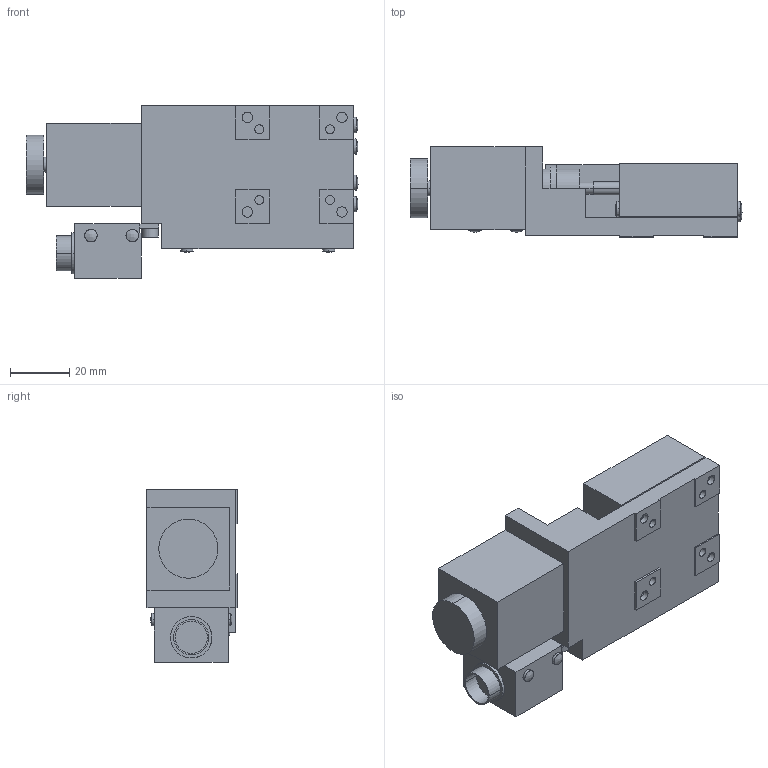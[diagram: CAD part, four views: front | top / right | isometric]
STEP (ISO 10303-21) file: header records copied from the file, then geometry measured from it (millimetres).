
FILE_DESCRIPTION (( 'STEP AP203' ), '1' );
FILE_NAME ('ALS-4011-G0M-R.STEP', '2010-12-20T04:50:02', ( ' ' ), ( ' ' ), 'SwSTEP 2.0', 'SolidWorks 2010', '' );
FILE_SCHEMA (( 'CONFIG_CONTROL_DESIGN' ));
Length unit declared in the file: millimetre
Products named in the file (3): ALS-4011-G0M-R-2; ALS-4011-G0M-R; ALS-4011-G0M-R-1
Assembly tree (2 placements, depth 2):
  ALS-4011-G0M-R
    ALS-4011-G0M-R-1
    ALS-4011-G0M-R-2
Bounding box: 112.44 x 30.5 x 58.5 mm (x, y, z)
Volume: 99648.5 mm3; surface area: 34691.4 mm2
Topology: 2 solids, 3 shells, 248 faces, 599 edges, 391 vertices
Faces by surface type: plane 125, cylinder 75, cone 34, bspline 14
Entity records: 10326 total; most frequent: CARTESIAN_POINT 4117, DIRECTION 1235, ORIENTED_EDGE 1190, EDGE_CURVE 595, AXIS2_PLACEMENT_3D 433, VERTEX_POINT 391, LINE 369, VECTOR 369
